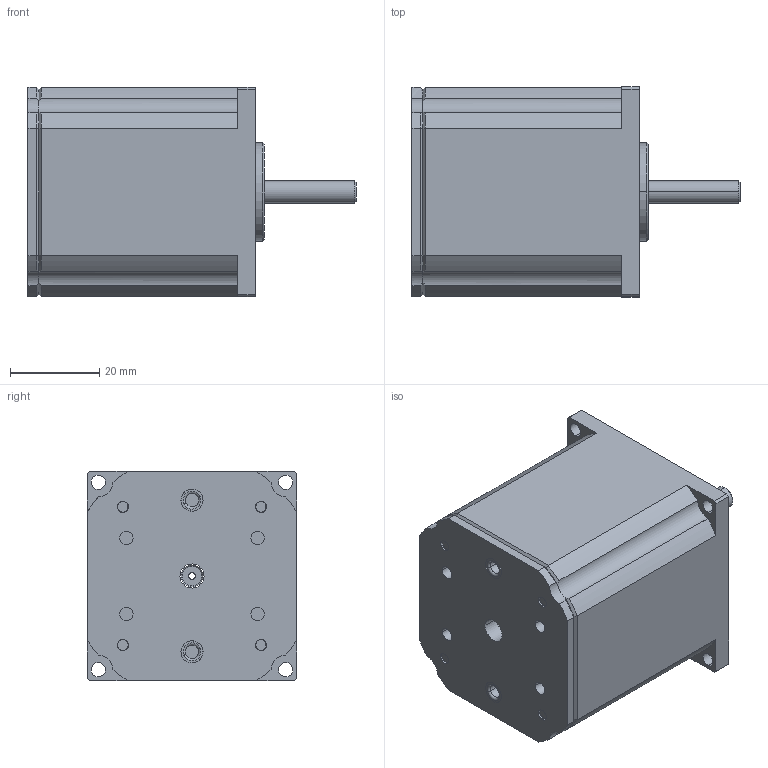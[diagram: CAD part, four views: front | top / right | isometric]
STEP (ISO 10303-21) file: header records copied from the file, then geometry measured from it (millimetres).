
FILE_DESCRIPTION (( 'STEP AP214' ), '1' );
FILE_NAME ('HV42-2.STEP', '2026-08-20T09:15:52', ( '' ), ( '' ), 'SwSTEP 2.0', 'SolidWorks 2026', '' );
FILE_SCHEMA (( 'AUTOMOTIVE_DESIGN' ));
Length unit declared in the file: millimetre
Products named in the file (1): HV42-2
Bounding box: 73.6 x 47 x 47 mm (x, y, z)
Surface area: 15600 mm2 (no closed solid volume)
Topology: 0 solids, 13 shells, 221 faces, 1212 edges, 1008 vertices
Faces by surface type: cylinder 142, plane 43, cone 29, torus 4, bspline 3
Entity records: 24558 total; most frequent: CARTESIAN_POINT 16260, ORIENTED_EDGE 1725, DIRECTION 1370, EDGE_CURVE 1212, VERTEX_POINT 1008, B_SPLINE_CURVE_WITH_KNOTS 636, AXIS2_PLACEMENT_3D 576, CIRCLE 357
